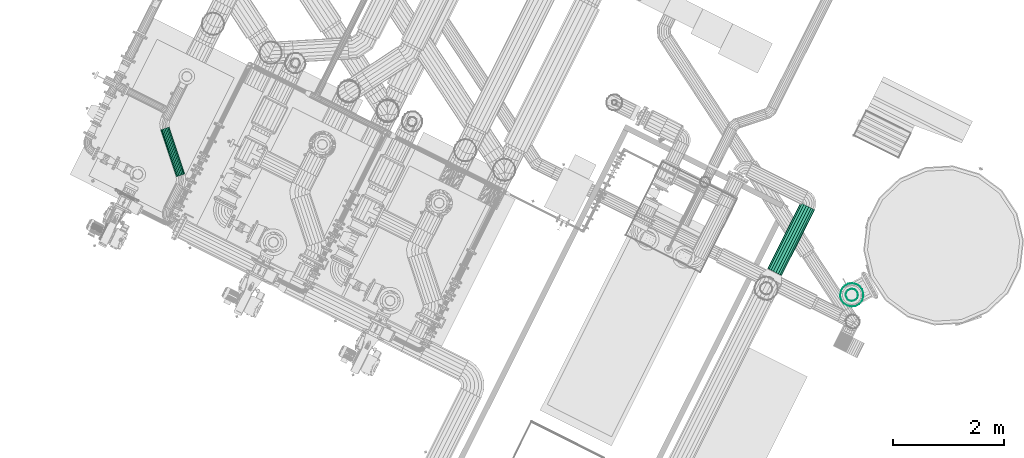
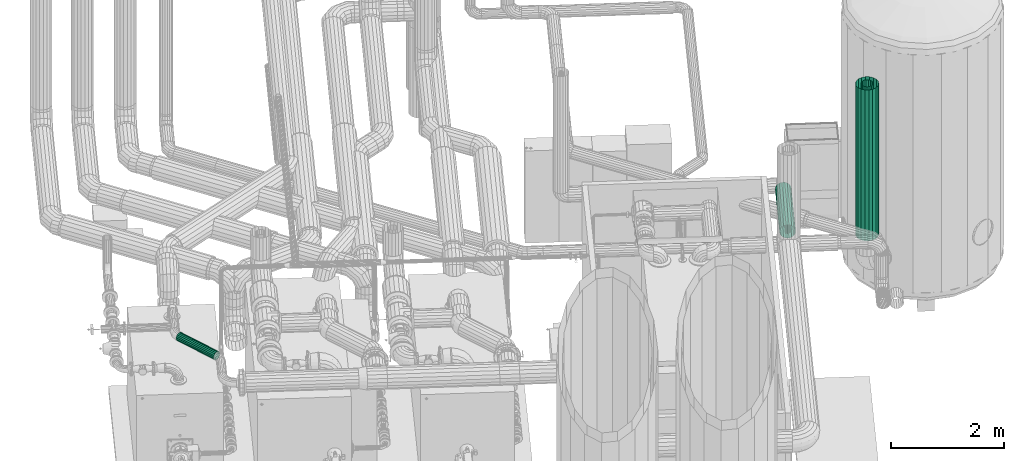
# One storey, part 9 of 206: 3 flow segments.
"""IFC2X3 building model written with IfcOpenShell, lengths in metres."""

from ifc_helpers import new_model, si_unit, derived_unit, direction, frame, origin, place, context, subcontext, project, spatial, face_set, surface_model, source, transform, mapped, material, type_object, type_shapes, element, save


model = new_model("IFC2X3")

# Units and contexts
model_context = context("Model", 3, precision=5.2338327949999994e-05, world=origin(), true_north=direction((0.0, 1.0)))
body_context = subcontext(model_context, "Body", "Model", "MODEL_VIEW")
ifc_project = project(units=[si_unit("LENGTHUNIT", "METRE"), si_unit("AREAUNIT", "SQUARE_METRE"), si_unit("VOLUMEUNIT", "CUBIC_METRE"), si_unit("MASSUNIT", "GRAM", prefix="KILO"), si_unit("PLANEANGLEUNIT", "RADIAN"), derived_unit("THERMALTRANSMITTANCEUNIT", [(si_unit("MASSUNIT", "GRAM", prefix="KILO"), 1), (si_unit("THERMODYNAMICTEMPERATUREUNIT", "KELVIN"), -1), (si_unit("TIMEUNIT", "SECOND"), -3)])], contexts=[model_context])

# Site, building, storey
site_placement = place(None, frame((0.0, 0.0, 0.0), z_axis=(0.0, 0.0, 1.0), x_axis=(0.8939966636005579, -0.4480736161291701, 0.0)))
site = spatial("IfcSite", under=ifc_project, at=site_placement, Name="Default", CompositionType="ELEMENT")
building_placement = place(site_placement, origin())
building = spatial("IfcBuilding", under=site, at=building_placement, CompositionType="ELEMENT")
storey_placement = place(building_placement, origin())
storey = spatial("IfcBuildingStorey", under=building, at=storey_placement, Name="Erdgeschoss", CompositionType="ELEMENT", Elevation=0.0)

# Flow segments
ifc_material_1 = material(Name="IfcSurfaceStyle #9317")
distribution_element_type_1 = type_object("IfcDistributionElementType", Name="Stahlrohr nach DIN 2448 341587:Stahlrohr nach DIN 2448 341587", material=ifc_material_1)
shared_shape_1 = source(origin(), body_context, "Body", "SurfaceModel", [
    surface_model("IfcFaceBasedSurfaceModel", [(21.508020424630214, 6.354033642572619, 2.4381500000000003), (21.48766918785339, 6.33368240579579, 2.4330751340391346), (22.11910109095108, 5.7022505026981, 2.4330751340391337), (22.139452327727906, 5.722601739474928, 2.4381499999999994), (21.469772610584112, 6.315785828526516, 2.418462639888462), (22.101204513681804, 5.684353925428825, 2.4184626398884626), (21.456489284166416, 6.30250250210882, 2.396074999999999), (22.087921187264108, 5.671070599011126, 2.396074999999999), (21.449421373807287, 6.295434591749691, 2.368612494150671), (22.080853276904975, 5.6640026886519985, 2.36861249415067), (21.449421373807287, 6.295434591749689, 2.3393875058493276), (22.080853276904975, 5.6640026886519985, 2.339387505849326), (21.456489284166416, 6.302502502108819, 2.311925), (22.087921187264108, 5.671070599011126, 2.311925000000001), (21.469772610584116, 6.315785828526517, 2.2895373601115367), (22.101204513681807, 5.684353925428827, 2.2895373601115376), (21.48766918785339, 6.33368240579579, 2.2749248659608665), (22.119101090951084, 5.7022505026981, 2.274924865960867), (21.508020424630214, 6.354033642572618, 2.26985), (22.139452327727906, 5.722601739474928, 2.26985), (21.528371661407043, 6.374384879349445, 2.274924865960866), (22.159803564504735, 5.742952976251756, 2.274924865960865), (21.54626823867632, 6.392281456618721, 2.2895373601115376), (22.17770014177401, 5.760849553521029, 2.2895373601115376), (21.55955156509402, 6.405564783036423, 2.3119249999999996), (22.19098346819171, 5.774132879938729, 2.311925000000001), (21.56661947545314, 6.412632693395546, 2.339387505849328), (22.198051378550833, 5.781200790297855, 2.33938750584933), (21.566619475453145, 6.412632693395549, 2.368612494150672), (22.198051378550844, 5.781200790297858, 2.368612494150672), (21.559551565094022, 6.4055647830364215, 2.3960749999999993), (22.19098346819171, 5.77413287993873, 2.396074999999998), (21.54626823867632, 6.392281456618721, 2.4184626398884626), (22.177700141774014, 5.760849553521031, 2.418462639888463), (21.528371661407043, 6.374384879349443, 2.4330751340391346), (22.159803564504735, 5.742952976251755, 2.433075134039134)], [face_set([[[0, 1, 2, 3]], [[1, 4, 5, 2]], [[4, 6, 7, 5]], [[6, 8, 9, 7]], [[8, 10, 11, 9]], [[10, 12, 13, 11]], [[12, 14, 15, 13]], [[14, 16, 17, 15]], [[16, 18, 19, 17]], [[18, 20, 21, 19]], [[20, 22, 23, 21]], [[22, 24, 25, 23]], [[24, 26, 27, 25]], [[26, 28, 29, 27]], [[28, 30, 31, 29]], [[30, 32, 33, 31]], [[32, 34, 35, 33]], [[34, 0, 3, 35]]])]),
])
type_shapes(distribution_element_type_1, [shared_shape_1])
flow_segment_1_placement = place(storey_placement, origin())
element("IfcFlowSegment", 1, at=flow_segment_1_placement, inside=storey, type_object=distribution_element_type_1, material=ifc_material_1, Name="Stahlrohr nach DIN 2448", ObjectType="Stahlrohr nach DIN 2448", context=body_context, shape_type="MappedRepresentation", body=[
    mapped(shared_shape_1, transform((0.0, 0.0, 0.0), scale=1.0)),
])
distribution_element_type_2 = type_object("IfcDistributionElementType", Name="Stahlrohr nach DIN 2448 346259:Stahlrohr nach DIN 2448 346259", material=ifc_material_1)
shared_shape_2 = source(origin(), body_context, "Body", "SurfaceModel", [
    surface_model("IfcFaceBasedSurfaceModel", [(32.53984487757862, 8.963986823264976, 2.354), (32.537164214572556, 8.963986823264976, 2.338797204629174), (32.537164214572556, 10.289208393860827, 2.338797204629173), (32.53984487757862, 10.289208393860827, 2.3539999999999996), (32.529445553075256, 8.963986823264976, 2.325428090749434), (32.529445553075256, 10.289208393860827, 2.325428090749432), (32.51761987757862, 8.963986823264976, 2.315505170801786), (32.51761987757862, 10.289208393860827, 2.315505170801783), (32.50311353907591, 8.963986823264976, 2.3102252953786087), (32.50311353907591, 10.289208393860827, 2.3102252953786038), (32.487676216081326, 8.963986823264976, 2.310225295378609), (32.487676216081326, 10.289208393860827, 2.3102252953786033), (32.47316987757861, 8.963986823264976, 2.3155051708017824), (32.47316987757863, 10.289208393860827, 2.3155051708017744), (32.461344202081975, 8.963986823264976, 2.325428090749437), (32.461344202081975, 10.289208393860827, 2.3254280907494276), (32.45362554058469, 8.963986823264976, 2.33879720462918), (32.453625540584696, 10.289208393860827, 2.3387972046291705), (32.45094487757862, 8.963986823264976, 2.354000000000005), (32.45094487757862, 10.289208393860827, 2.3539999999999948), (32.453625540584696, 8.963986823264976, 2.3692027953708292), (32.45362554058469, 10.289208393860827, 2.3692027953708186), (32.46134420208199, 8.963986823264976, 2.3825719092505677), (32.461344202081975, 10.289208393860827, 2.3825719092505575), (32.47316987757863, 8.963986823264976, 2.392494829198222), (32.47316987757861, 10.289208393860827, 2.392494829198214), (32.48767621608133, 8.963986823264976, 2.397774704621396), (32.487676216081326, 10.289208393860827, 2.3977747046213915), (32.503113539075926, 8.963986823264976, 2.397774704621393), (32.50311353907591, 10.289208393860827, 2.3977747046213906), (32.517619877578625, 8.963986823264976, 2.3924948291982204), (32.51761987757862, 10.289208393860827, 2.392494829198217), (32.52944555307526, 8.963986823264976, 2.3825719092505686), (32.52944555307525, 10.289208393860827, 2.3825719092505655), (32.537164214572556, 8.963986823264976, 2.3692027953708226), (32.537164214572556, 10.289208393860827, 2.3692027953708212), (32.639844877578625, 8.963986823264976, 2.3539999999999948), (32.63113347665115, 8.963986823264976, 2.3045951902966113), (32.631133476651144, 10.289208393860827, 2.304595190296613), (32.63984487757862, 10.289208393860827, 2.3540000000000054), (32.606049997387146, 8.963986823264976, 2.2611493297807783), (32.60604999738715, 10.289208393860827, 2.261149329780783), (32.567619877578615, 8.963986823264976, 2.2289026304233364), (32.56761987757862, 10.289208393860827, 2.2289026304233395), (32.52047835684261, 8.963986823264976, 2.2117445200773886), (32.520478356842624, 10.289208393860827, 2.211744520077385), (32.470311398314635, 8.963986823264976, 2.211744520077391), (32.47031139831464, 10.289208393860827, 2.2117445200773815), (32.423169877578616, 8.963986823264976, 2.2289026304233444), (32.42316987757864, 10.289208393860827, 2.22890263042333), (32.38473975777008, 8.963986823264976, 2.261149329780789), (32.38473975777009, 10.289208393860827, 2.2611493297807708), (32.359656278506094, 8.963986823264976, 2.3045951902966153), (32.359656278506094, 10.289208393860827, 2.3045951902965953), (32.35094487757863, 8.963986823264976, 2.3540000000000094), (32.35094487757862, 10.289208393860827, 2.353999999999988), (32.359656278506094, 8.963986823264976, 2.4034048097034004), (32.359656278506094, 10.289208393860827, 2.40340480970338), (32.38473975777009, 8.963986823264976, 2.4468506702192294), (32.384739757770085, 10.289208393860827, 2.446850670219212), (32.42316987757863, 8.963986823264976, 2.4790973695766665), (32.423169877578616, 10.289208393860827, 2.479097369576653), (32.47031139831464, 8.963986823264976, 2.496255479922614), (32.47031139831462, 10.289208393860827, 2.4962554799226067), (32.52047835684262, 8.963986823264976, 2.496255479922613), (32.5204783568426, 10.289208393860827, 2.4962554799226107), (32.56761987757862, 8.963986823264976, 2.4790973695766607), (32.567619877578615, 10.289208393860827, 2.4790973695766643), (32.60604999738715, 8.963986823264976, 2.4468506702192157), (32.606049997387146, 10.289208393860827, 2.4468506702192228), (32.631133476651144, 8.963986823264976, 2.4034048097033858), (32.631133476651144, 10.289208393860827, 2.403404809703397)], [face_set([[[0, 1, 2, 3]], [[1, 4, 5, 2]], [[4, 6, 7, 5]], [[6, 8, 9, 7]], [[8, 10, 11, 9]], [[10, 12, 13, 11]], [[12, 14, 15, 13]], [[14, 16, 17, 15]], [[16, 18, 19, 17]], [[18, 20, 21, 19]], [[20, 22, 23, 21]], [[22, 24, 25, 23]], [[24, 26, 27, 25]], [[26, 28, 29, 27]], [[28, 30, 31, 29]], [[30, 32, 33, 31]], [[32, 34, 35, 33]], [[34, 0, 3, 35]], [[36, 37, 38, 39]], [[37, 40, 41, 38]], [[40, 42, 43, 41]], [[42, 44, 45, 43]], [[44, 46, 47, 45]], [[46, 48, 49, 47]], [[48, 50, 51, 49]], [[50, 52, 53, 51]], [[52, 54, 55, 53]], [[54, 56, 57, 55]], [[56, 58, 59, 57]], [[58, 60, 61, 59]], [[60, 62, 63, 61]], [[62, 64, 65, 63]], [[64, 66, 67, 65]], [[66, 68, 69, 67]], [[68, 70, 71, 69]], [[70, 36, 39, 71]]])]),
])
type_shapes(distribution_element_type_2, [shared_shape_2])
flow_segment_2_placement = place(storey_placement, origin())
element("IfcFlowSegment", 2, at=flow_segment_2_placement, inside=storey, type_object=distribution_element_type_2, material=ifc_material_1, Name="Stahlrohr nach DIN 2448", ObjectType="Stahlrohr nach DIN 2448", context=body_context, shape_type="MappedRepresentation", body=[
    mapped(shared_shape_2, transform((0.0, 0.0, 0.0), scale=1.0)),
])
ifc_material_2 = material(Name="IfcSurfaceStyle #1741")
distribution_element_type_3 = type_object("IfcDistributionElementType", Name="Stahlrohr nach DIN 2448 350546:Stahlrohr nach DIN 2448 350546", material=ifc_material_2)
shared_shape_3 = source(origin(), body_context, "Body", "SurfaceModel", [
    surface_model("IfcFaceBasedSurfaceModel", [(33.863942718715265, 9.130025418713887, 2.056409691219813), (33.89842439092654, 9.113946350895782, 2.056409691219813), (33.89842439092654, 9.113946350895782, 5.330640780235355), (33.86394271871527, 9.130025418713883, 5.330640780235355), (33.93632592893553, 9.110630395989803, 2.056409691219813), (33.93632592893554, 9.110630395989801, 5.330640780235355), (33.973075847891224, 9.12047750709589, 2.056409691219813), (33.97307584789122, 9.120477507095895, 5.330640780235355), (34.00424156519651, 9.14229997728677, 2.056409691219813), (34.004241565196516, 9.142299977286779, 5.330640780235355), (34.02606403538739, 9.173465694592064, 2.056409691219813), (34.02606403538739, 9.173465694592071, 5.330640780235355), (34.03591114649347, 9.210215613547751, 2.056409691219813), (34.03591114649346, 9.21021561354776, 5.330640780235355), (34.0325951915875, 9.248117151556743, 2.056409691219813), (34.032595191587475, 9.24811715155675, 5.330640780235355), (34.01651612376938, 9.282598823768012, 2.056409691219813), (34.01651612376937, 9.282598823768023, 5.330640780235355), (33.989613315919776, 9.309501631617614, 2.056409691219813), (33.98961331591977, 9.309501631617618, 5.330640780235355), (33.95513164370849, 9.325580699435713, 2.056409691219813), (33.95513164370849, 9.325580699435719, 5.330640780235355), (33.9172301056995, 9.328896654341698, 2.056409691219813), (33.9172301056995, 9.328896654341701, 5.330640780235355), (33.88048018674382, 9.319049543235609, 2.056409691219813), (33.88048018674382, 9.319049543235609, 5.330640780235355), (33.849314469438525, 9.297227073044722, 2.056409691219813), (33.84931446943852, 9.297227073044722, 5.330640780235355), (33.82749199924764, 9.266061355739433, 2.056409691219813), (33.827491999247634, 9.266061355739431, 5.330640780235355), (33.817644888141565, 9.229311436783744, 2.056409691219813), (33.81764488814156, 9.22931143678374, 5.330640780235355), (33.820960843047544, 9.19140989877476, 2.056409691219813), (33.82096084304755, 9.191409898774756, 5.330640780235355), (33.837039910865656, 9.156928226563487, 2.056409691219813), (33.837039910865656, 9.156928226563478, 5.330640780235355), (33.806585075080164, 9.048110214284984, 2.056409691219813), (33.872542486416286, 9.017353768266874, 2.056409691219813), (33.8725424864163, 9.017353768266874, 5.330640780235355), (33.80658507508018, 9.048110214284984, 5.330640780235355), (33.9450415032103, 9.011010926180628, 2.056409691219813), (33.945041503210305, 9.011010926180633, 5.330640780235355), (34.0153376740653, 9.029846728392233, 2.056409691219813), (34.0153376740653, 9.029846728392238, 5.330640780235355), (34.074952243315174, 9.071589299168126, 2.056409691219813), (34.07495224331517, 9.071589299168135, 5.330640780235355), (34.11669481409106, 9.131203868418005, 2.056409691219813), (34.116694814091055, 9.131203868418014, 5.330640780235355), (34.13553061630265, 9.201500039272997, 2.056409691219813), (34.13553061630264, 9.201500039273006, 5.330640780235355), (34.1291877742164, 9.273999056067, 2.056409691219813), (34.12918777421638, 9.27399905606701, 5.330640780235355), (34.098431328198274, 9.339956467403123, 2.056409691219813), (34.09843132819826, 9.339956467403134, 5.330640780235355), (34.04697095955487, 9.391416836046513, 2.056409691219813), (34.04697095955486, 9.391416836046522, 5.330640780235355), (33.98101354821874, 9.422173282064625, 2.056409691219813), (33.98101354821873, 9.42217328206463, 5.330640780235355), (33.908514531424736, 9.428516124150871, 2.056409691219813), (33.90851453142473, 9.428516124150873, 5.330640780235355), (33.83821836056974, 9.409680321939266, 2.056409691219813), (33.83821836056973, 9.409680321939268, 5.330640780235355), (33.77860379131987, 9.367937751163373, 2.056409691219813), (33.77860379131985, 9.36793775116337, 5.330640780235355), (33.73686122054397, 9.308323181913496, 2.056409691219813), (33.73686122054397, 9.308323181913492, 5.330640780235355), (33.71802541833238, 9.238027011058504, 2.056409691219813), (33.71802541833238, 9.238027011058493, 5.330640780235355), (33.72436826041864, 9.1655279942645, 2.056409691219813), (33.72436826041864, 9.16552799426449, 5.330640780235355), (33.75512470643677, 9.099570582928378, 2.056409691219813), (33.75512470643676, 9.09957058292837, 5.330640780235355)], [face_set([[[0, 1, 2, 3]], [[1, 4, 5, 2]], [[4, 6, 7, 5]], [[6, 8, 9, 7]], [[8, 10, 11, 9]], [[10, 12, 13, 11]], [[12, 14, 15, 13]], [[14, 16, 17, 15]], [[16, 18, 19, 17]], [[18, 20, 21, 19]], [[20, 22, 23, 21]], [[22, 24, 25, 23]], [[24, 26, 27, 25]], [[26, 28, 29, 27]], [[28, 30, 31, 29]], [[30, 32, 33, 31]], [[32, 34, 35, 33]], [[34, 0, 3, 35]], [[36, 37, 38, 39]], [[37, 40, 41, 38]], [[40, 42, 43, 41]], [[42, 44, 45, 43]], [[44, 46, 47, 45]], [[46, 48, 49, 47]], [[48, 50, 51, 49]], [[50, 52, 53, 51]], [[52, 54, 55, 53]], [[54, 56, 57, 55]], [[56, 58, 59, 57]], [[58, 60, 61, 59]], [[60, 62, 63, 61]], [[62, 64, 65, 63]], [[64, 66, 67, 65]], [[66, 68, 69, 67]], [[68, 70, 71, 69]], [[70, 36, 39, 71]]])]),
])
type_shapes(distribution_element_type_3, [shared_shape_3])
flow_segment_3_placement = place(storey_placement, origin())
element("IfcFlowSegment", 3, at=flow_segment_3_placement, inside=storey, type_object=distribution_element_type_3, material=ifc_material_2, Name="Stahlrohr nach DIN 2448", ObjectType="Stahlrohr nach DIN 2448", context=body_context, shape_type="MappedRepresentation", body=[
    mapped(shared_shape_3, transform((0.0, 0.0, 0.0), scale=1.0)),
])

save(model, "model.ifc")
